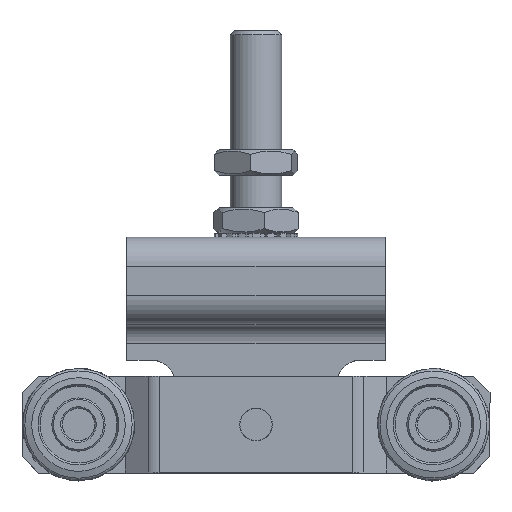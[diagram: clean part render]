
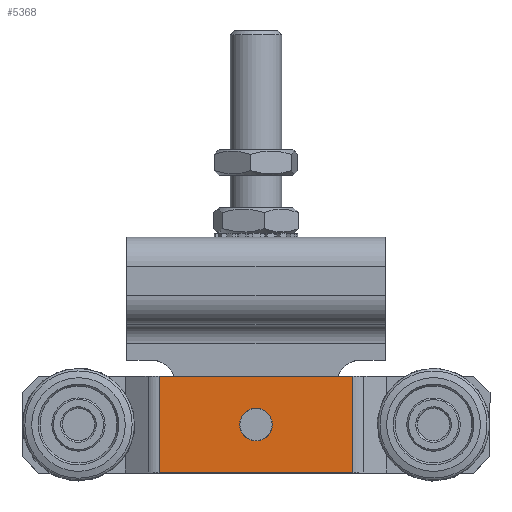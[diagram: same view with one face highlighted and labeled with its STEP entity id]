
A CAD part, top view. The second image highlights one B-rep face of the part: STEP entity #5368.
In plain terms, the highlighted planar face has unit normal (0, 0, 1).
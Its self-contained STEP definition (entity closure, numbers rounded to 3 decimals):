
#191=FACE_BOUND('',#696,.T.);
#362=FACE_OUTER_BOUND('',#695,.T.);
#695=EDGE_LOOP('',(#3622,#3623,#3624,#3625));
#696=EDGE_LOOP('',(#3626));
#1079=LINE('',#8067,#1555);
#1085=LINE('',#8081,#1561);
#1086=LINE('',#8083,#1562);
#1087=LINE('',#8084,#1563);
#1555=VECTOR('',#6347,30.);
#1561=VECTOR('',#6361,60.);
#1562=VECTOR('',#6362,30.);
#1563=VECTOR('',#6363,60.);
#2031=CIRCLE('',#5716,5.05);
#2299=VERTEX_POINT('',#8049);
#2302=VERTEX_POINT('',#8057);
#2309=VERTEX_POINT('',#8080);
#2310=VERTEX_POINT('',#8082);
#2311=VERTEX_POINT('',#8085);
#2821=EDGE_CURVE('',#2302,#2299,#1079,.T.);
#2828=EDGE_CURVE('',#2309,#2299,#1085,.T.);
#2829=EDGE_CURVE('',#2309,#2310,#1086,.T.);
#2830=EDGE_CURVE('',#2302,#2310,#1087,.T.);
#2831=EDGE_CURVE('',#2311,#2311,#2031,.T.);
#3622=ORIENTED_EDGE('',*,*,#2821,.T.);
#3623=ORIENTED_EDGE('',*,*,#2828,.F.);
#3624=ORIENTED_EDGE('',*,*,#2829,.T.);
#3625=ORIENTED_EDGE('',*,*,#2830,.F.);
#3626=ORIENTED_EDGE('',*,*,#2831,.T.);
#5182=PLANE('',#5715);
#5368=ADVANCED_FACE('',(#362,#191),#5182,.T.);
#5715=AXIS2_PLACEMENT_3D('',#8079,#6359,#6360);
#5716=AXIS2_PLACEMENT_3D('',#8086,#6364,#6365);
#6347=DIRECTION('',(0.,1.,0.));
#6359=DIRECTION('center_axis',(0.,0.,1.));
#6360=DIRECTION('ref_axis',(1.,0.,0.));
#6361=DIRECTION('',(1.,0.,0.));
#6362=DIRECTION('',(0.,-1.,0.));
#6363=DIRECTION('',(-1.,0.,0.));
#6364=DIRECTION('center_axis',(0.,0.,-1.));
#6365=DIRECTION('ref_axis',(-1.,0.,0.));
#8049=CARTESIAN_POINT('',(30.,15.,6.));
#8057=CARTESIAN_POINT('',(30.,-15.,6.));
#8067=CARTESIAN_POINT('',(30.,-7.5,6.));
#8079=CARTESIAN_POINT('Origin',(0.,0.,
6.));
#8080=CARTESIAN_POINT('',(-30.,15.,6.));
#8081=CARTESIAN_POINT('',(68.5,15.,6.));
#8082=CARTESIAN_POINT('',(-30.,-15.,6.));
#8083=CARTESIAN_POINT('',(-30.,7.5,6.));
#8084=CARTESIAN_POINT('',(-68.5,-15.,6.));
#8085=CARTESIAN_POINT('',(5.05,0.,6.));
#8086=CARTESIAN_POINT('Origin',(0.,0.,6.));
